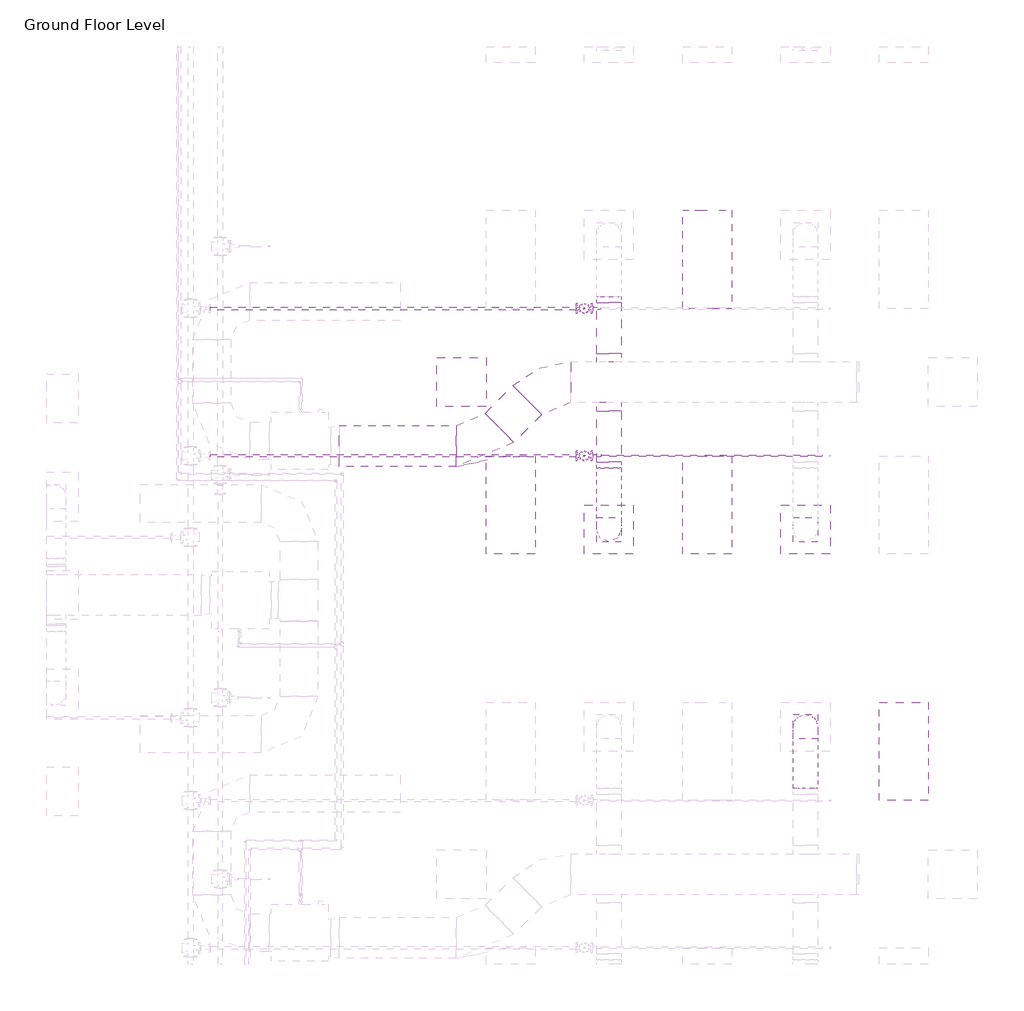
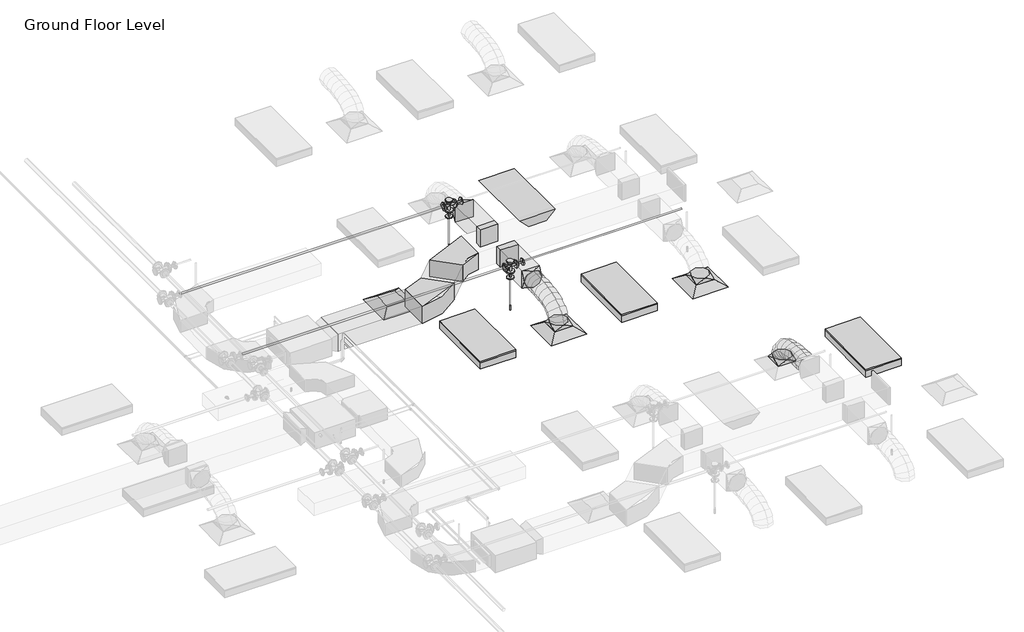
# One storey, part 64 of 74: 9 duct fittings, 6 duct segments, 6 pipe fittings, 5 pipe segments, 4 light fixtures, 3 air terminals, 2 fire suppression terminals.
"""IFC4 building model written with IfcOpenShell, lengths in millimetres."""

from ifc_helpers import new_model, si_unit, point, frame, frame_2d, origin, place, context, project, spatial, polyline, circle_curve, ellipse_curve, trimmed, segment, composite_curve, outline, extrude, transform, mapped, element, save
from ifc_brep_helpers import plane_surface, cylinder_surface, advanced_brep
from components import m_return_diffuser_600_x_600_face_300_x_300_connection_ff221211, m_rectangular_elbow_radius_1_5_w_acc56c25, m_rectangular_takeoff_standard_cb0ccb98, m_rectangular_takeoff_standard_2be5eba1, m_rectangular_to_round_transition_angle_45_degree_641efff0, m_sprinkler_dry_pendent_hosted_15_mm_dry_pendent_9bda8e11, m_emergency_recessed_lighting_fixture_600x1200_277_5b10b25d, m_troffer_light_parabolic_rectangular1_0600x1200mm_4_lamp_86473d4a, m_reducer_flanged_cs_class_150_standard_ccf252ad, m_tee_round_base_flanged_cs_class_150_standard_7e5987a1

model = new_model("IFC4")

# Units and contexts
model_context = context("Model", 3, world=origin())
ifc_project = project(units=[si_unit("LENGTHUNIT", "METRE", prefix="MILLI")], contexts=[model_context])

# Site, building, storey
site = spatial("IfcSite", under=ifc_project)
building = spatial("IfcBuilding", under=site)
storey = spatial("IfcBuildingStorey", under=building, Name="Ground Floor Level", Elevation=900.0)

# Air terminals
placement = place(None, origin())
m_return_diffuser_600_x_600_face_300_x_300_connection_shape = m_return_diffuser_600_x_600_face_300_x_300_connection_ff221211(model_context)
element("IfcAirTerminal", 1, ObjectType="M_Return Diffuser : 600 x 600 Face 300 x 300 Connection", at=placement, inside=storey, context=model_context, shape_type="MappedRepresentation", body=[
    mapped(m_return_diffuser_600_x_600_face_300_x_300_connection_shape, transform((8942.7672395, 6735.2153534, 3650.0), x_axis=(1.0, 0.0, 0.0), y_axis=(0.0, 1.0, 0.0), z_axis=(0.0, 0.0, 1.0))),
])
element("IfcAirTerminal", 2, ObjectType="M_Supply Diffuser : 600 x 600 Face 300 x 300 Connection", at=placement, inside=storey, context=model_context, shape_type="MappedRepresentation", body=[
    mapped(m_return_diffuser_600_x_600_face_300_x_300_connection_shape, transform((10742.7672395, 4935.2153534, 3650.0), x_axis=(1.0, 0.0, 0.0), y_axis=(0.0, 1.0, 0.0), z_axis=(0.0, 0.0, 1.0))),
])
element("IfcAirTerminal", 3, ObjectType="M_Supply Diffuser : 600 x 600 Face 300 x 300 Connection", at=placement, inside=storey, context=model_context, shape_type="MappedRepresentation", body=[
    mapped(m_return_diffuser_600_x_600_face_300_x_300_connection_shape, transform((13142.7672395, 4935.2153534, 3650.0), x_axis=(1.0, 0.0, 0.0), y_axis=(0.0, 1.0, 0.0), z_axis=(0.0, 0.0, 1.0))),
])

# Duct fittings
m_rectangular_elbow_radius_1_5_w_shape = m_rectangular_elbow_radius_1_5_w_acc56c25(model_context)
element("IfcDuctFitting", 4, ObjectType="M_Rectangular Elbow - Radius : 1.5 W", at=placement, inside=storey, context=model_context, shape_type="MappedRepresentation", body=[
    mapped(m_rectangular_elbow_radius_1_5_w_shape, transform((9187.6927358, 5956.1779527, 4100.0047224), x_axis=(0.9999999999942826, 0.0, -3.3815582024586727e-06), y_axis=(-9.063610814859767e-12, 0.9999999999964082, -2.680306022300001e-06), z_axis=(3.3815582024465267e-06, 2.6803060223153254e-06, 0.9999999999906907))),
])
element("IfcDuctFitting", 5, ObjectType="M_Rectangular Elbow - Radius : 1.5 W", at=placement, inside=storey, context=model_context, shape_type="MappedRepresentation", body=[
    mapped(m_rectangular_elbow_radius_1_5_w_shape, transform((9966.7301365, 6735.2153534, 4100.0), x_axis=(-1.0, 0.0, 0.0), y_axis=(0.0, -0.9999999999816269, 6.061864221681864e-06), z_axis=(0.0, 6.061864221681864e-06, 0.9999999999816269))),
])
m_rectangular_takeoff_standard_shape = m_rectangular_takeoff_standard_cb0ccb98(model_context)
element("IfcDuctFitting", 6, ObjectType="M_Rectangular Takeoff : Standard", at=placement, inside=storey, context=model_context, shape_type="MappedRepresentation", body=[
    mapped(m_rectangular_takeoff_standard_shape, transform((10742.7672395, 6985.2153534, 4100.0), x_axis=(0.0, 1.0, 0.0), y_axis=(1.0, 0.0, 0.0), z_axis=(0.0, 0.0, -1.0))),
])
m_rectangular_takeoff_standard_2_shape = m_rectangular_takeoff_standard_2be5eba1(model_context)
element("IfcDuctFitting", 7, ObjectType="M_Rectangular Takeoff : Standard", at=placement, inside=storey, context=model_context, shape_type="MappedRepresentation", body=[
    mapped(m_rectangular_takeoff_standard_2_shape, transform((10742.7672395, 6485.2153534, 4100.0), x_axis=(0.0, -1.0, 0.0), y_axis=(-1.0, 0.0, 0.0), z_axis=(0.0, 0.0, -1.0))),
])
m_rectangular_to_round_transition_angle_45_degree_shape = m_rectangular_to_round_transition_angle_45_degree_641efff0(model_context)
element("IfcDuctFitting", 8, ObjectType="M_Rectangular to Round Transition - Angle : 45 Degree", at=placement, inside=storey, context=model_context, shape_type="MappedRepresentation", body=[
    mapped(m_rectangular_to_round_transition_angle_45_degree_shape, transform((13142.7672395, 2525.2153534, 3751.6), x_axis=(0.0, 0.0, 1.0), y_axis=(-1.0, 0.0, 0.0), z_axis=(0.0, -1.0, 0.0))),
])
element("IfcDuctFitting", 9, ObjectType="M_Rectangular to Round Transition - Angle : 45 Degree", at=placement, inside=storey, context=model_context, shape_type="MappedRepresentation", body=[
    mapped(m_rectangular_to_round_transition_angle_45_degree_shape, transform((10742.7672395, 4935.2153534, 3751.6), x_axis=(0.0, 0.0, 1.0), y_axis=(-1.0, 0.0, 0.0), z_axis=(0.0, -1.0, 0.0))),
])
element("IfcDuctFitting", 10, ObjectType="M_Rectangular to Round Transition - Angle : 45 Degree", at=placement, inside=storey, context=model_context, shape_type="MappedRepresentation", body=[
    mapped(m_rectangular_to_round_transition_angle_45_degree_shape, transform((10742.7672395, 5762.5512847, 4100.0), x_axis=(0.0, -1.0, 0.0), y_axis=(1.0, 0.0, 0.0), z_axis=(0.0, 0.0, 1.0))),
])
element("IfcDuctFitting", 11, ObjectType="M_Rectangular to Round Transition - Angle : 45 Degree", at=placement, inside=storey, context=model_context, shape_type="MappedRepresentation", body=[
    mapped(m_rectangular_to_round_transition_angle_45_degree_shape, transform((13142.7672395, 4935.2153534, 3751.6), x_axis=(0.0, 0.0, 1.0), y_axis=(-1.0, 0.0, 0.0), z_axis=(0.0, -1.0, 0.0))),
])
element("IfcDuctFitting", 12, ObjectType="M_Rectangular to Round Transition - Angle : 45 Degree", at=placement, inside=storey, context=model_context, shape_type="MappedRepresentation", body=[
    mapped(m_rectangular_to_round_transition_angle_45_degree_shape, transform((10742.7672395, 7707.8794221, 4100.0), x_axis=(0.0, 1.0, 0.0), y_axis=(-1.0, 0.0, 0.0), z_axis=(0.0, 0.0, 1.0))),
])

# Duct segments
element("IfcDuctSegment", 13, ObjectType="Flex - Round", at=placement, inside=storey, context=model_context, shape_type="AdvancedBrep", body=[
    advanced_brep(
    [(13292.7672395, 2525.2153534, 3826.6), (13142.7672395, 2375.2153534, 3826.6), (12992.7672395, 2525.2153534, 3826.6), (13142.7672395, 2675.2153534, 3826.6), (13292.7672395, 2525.2153534, 3857.9377114), (13142.7672395, 2375.2153534, 3832.2944892), (12992.7672395, 2525.2153534, 3857.9377114), (13142.7672395, 2675.2153534, 3883.5809337), (13292.7672395, 2508.1994208, 3906.2505728), (13142.7672395, 2374.4614419, 3834.435049), (12992.7672395, 2508.1994208, 3906.2505728), (13142.7672395, 2641.9373998, 3978.0660967), (13292.7672395, 2461.0155405, 3968.7113131), (13142.7672395, 2356.8096412, 3857.8020236), (12992.7672395, 2461.0155405, 3968.7113131), (13142.7672395, 2565.2214397, 4079.6206026), (13292.7672395, 2389.4595883, 4016.0700639), (13142.7672395, 2320.5255327, 3881.8163788), (12992.7672395, 2389.4595883, 4016.0700639), (13142.7672395, 2458.3936439, 4150.3237489), (13292.7672395, 2299.3274403, 4050.4146682), (13142.7672395, 2255.7666771, 3906.4925606), (12992.7672395, 2299.3274403, 4050.4146682), (13142.7672395, 2342.8882035, 4194.3367758), (13292.7672395, 2196.4149725, 4073.8329691), (13142.7672395, 2169.8540485, 3926.0424542), (12992.7672395, 2196.4149725, 4073.8329691), (13142.7672395, 2222.9758965, 4221.6234841), (13292.7672395, 2086.5180607, 4088.4128097), (13142.7672395, 2071.3671584, 3939.1085462), (12992.7672395, 2086.5180607, 4088.4128097), (13142.7672395, 2101.6689631, 4237.7170733), (13292.7672395, 1975.4325811, 4096.242033), (13142.7672395, 1967.9272529, 3946.398915), (12992.7672395, 1975.4325811, 4096.242033), (13142.7672395, 1982.9379093, 4246.085151), (13292.7672395, 1868.9544096, 4099.4084821), (13142.7672395, 1866.2629165, 3949.4222102), (12992.7672395, 1868.9544096, 4099.4084821), (13142.7672395, 1871.6459027, 4249.394754), (13292.7672395, 1772.8794221, 4100.0), (13142.7672395, 1773.8029299, 4249.9971571), (12992.7672395, 1772.8794221, 4100.0), (13142.7672395, 1771.9559143, 3950.0028429)],
    [
        (0, 1, circle_curve(frame((13142.7672395, 2525.2153534, 3826.6), z_axis=(0.0, 0.0, -1.0), x_axis=(1.0, 0.0, 0.0)), 150.0)),
        (1, 2, circle_curve(frame((13142.7672395, 2525.2153534, 3826.6), z_axis=(0.0, 0.0, -1.0), x_axis=(1.0, 0.0, 0.0)), 150.0)),
        (2, 3, circle_curve(frame((13142.7672395, 2525.2153534, 3826.6), z_axis=(0.0, 0.0, -1.0), x_axis=(1.0, 0.0, 0.0)), 150.0)),
        (3, 0, circle_curve(frame((13142.7672395, 2525.2153534, 3826.6), z_axis=(0.0, 0.0, -1.0), x_axis=(1.0, 0.0, 0.0)), 150.0)),
        (0, 4),
        (4, 5, ellipse_curve(frame((13142.7672395, 2525.2153534, 3857.9377114), z_axis=(0.0, 0.16851014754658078, -0.9856999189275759), x_axis=(0.0, -0.9856999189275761, -0.1685101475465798)), 152.176131, 150.0)),
        (5, 1),
        (5, 6, ellipse_curve(frame((13142.7672395, 2525.2153534, 3857.9377114), z_axis=(0.0, 0.16851014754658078, -0.9856999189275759), x_axis=(0.0, -0.9856999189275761, -0.1685101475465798)), 152.176131, 150.0)),
        (6, 2),
        (6, 7, ellipse_curve(frame((13142.7672395, 2525.2153534, 3857.9377114), z_axis=(0.0, 0.16851014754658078, -0.9856999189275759), x_axis=(0.0, -0.9856999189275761, -0.1685101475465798)), 152.176131, 150.0)),
        (7, 3),
        (7, 4, ellipse_curve(frame((13142.7672395, 2525.2153534, 3857.9377114), z_axis=(0.0, 0.16851014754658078, -0.9856999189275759), x_axis=(0.0, -0.9856999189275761, -0.1685101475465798)), 152.176131, 150.0)),
        (4, 8),
        (8, 9, ellipse_curve(frame((13142.7672395, 2508.1994208, 3906.2505728), z_axis=(0.0, 0.47309225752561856, -0.8810128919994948), x_axis=(0.0, -0.8810128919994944, -0.47309225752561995)), 151.8002519, 150.0)),
        (9, 5),
        (9, 10, ellipse_curve(frame((13142.7672395, 2508.1994208, 3906.2505728), z_axis=(0.0, 0.47309225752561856, -0.8810128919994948), x_axis=(0.0, -0.8810128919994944, -0.47309225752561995)), 151.8002519, 150.0)),
        (10, 6),
        (10, 11, ellipse_curve(frame((13142.7672395, 2508.1994208, 3906.2505728), z_axis=(0.0, 0.47309225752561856, -0.8810128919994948), x_axis=(0.0, -0.8810128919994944, -0.47309225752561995)), 151.8002519, 150.0)),
        (11, 7),
        (11, 8, ellipse_curve(frame((13142.7672395, 2508.1994208, 3906.2505728), z_axis=(0.0, 0.47309225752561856, -0.8810128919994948), x_axis=(0.0, -0.8810128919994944, -0.47309225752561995)), 151.8002519, 150.0)),
        (8, 12),
        (12, 13, ellipse_curve(frame((13142.7672395, 2461.0155405, 3968.7113131), z_axis=(0.0, 0.7287877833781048, -0.6847396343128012), x_axis=(0.0, -0.6847396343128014, -0.7287877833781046)), 152.1832446, 150.0)),
        (13, 9),
        (13, 14, ellipse_curve(frame((13142.7672395, 2461.0155405, 3968.7113131), z_axis=(0.0, 0.7287877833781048, -0.6847396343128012), x_axis=(0.0, -0.6847396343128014, -0.7287877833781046)), 152.1832446, 150.0)),
        (14, 10),
        (14, 15, ellipse_curve(frame((13142.7672395, 2461.0155405, 3968.7113131), z_axis=(0.0, 0.7287877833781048, -0.6847396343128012), x_axis=(0.0, -0.6847396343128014, -0.7287877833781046)), 152.1832446, 150.0)),
        (15, 11),
        (15, 12, ellipse_curve(frame((13142.7672395, 2461.0155405, 3968.7113131), z_axis=(0.0, 0.7287877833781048, -0.6847396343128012), x_axis=(0.0, -0.6847396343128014, -0.7287877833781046)), 152.1832446, 150.0)),
        (12, 16),
        (16, 17, ellipse_curve(frame((13142.7672395, 2389.4595883, 4016.0700639), z_axis=(0.0, 0.8895859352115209, -0.45676784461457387), x_axis=(0.0, -0.45676784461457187, -0.8895859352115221)), 150.91705, 150.0)),
        (17, 13),
        (17, 18, ellipse_curve(frame((13142.7672395, 2389.4595883, 4016.0700639), z_axis=(0.0, 0.8895859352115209, -0.45676784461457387), x_axis=(0.0, -0.45676784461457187, -0.8895859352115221)), 150.91705, 150.0)),
        (18, 14),
        (18, 19, ellipse_curve(frame((13142.7672395, 2389.4595883, 4016.0700639), z_axis=(0.0, 0.8895859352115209, -0.45676784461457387), x_axis=(0.0, -0.45676784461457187, -0.8895859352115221)), 150.91705, 150.0)),
        (19, 15),
        (19, 16, ellipse_curve(frame((13142.7672395, 2389.4595883, 4016.0700639), z_axis=(0.0, 0.8895859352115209, -0.45676784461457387), x_axis=(0.0, -0.45676784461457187, -0.8895859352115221)), 150.91705, 150.0)),
        (16, 20),
        (20, 21, ellipse_curve(frame((13142.7672395, 2299.3274403, 4050.4146682), z_axis=(0.0, 0.9571203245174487, -0.28969067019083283), x_axis=(0.0, -0.28969067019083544, -0.9571203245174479)), 150.369921, 150.0)),
        (21, 17),
        (21, 22, ellipse_curve(frame((13142.7672395, 2299.3274403, 4050.4146682), z_axis=(0.0, 0.9571203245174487, -0.28969067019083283), x_axis=(0.0, -0.28969067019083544, -0.9571203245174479)), 150.369921, 150.0)),
        (22, 18),
        (22, 23, ellipse_curve(frame((13142.7672395, 2299.3274403, 4050.4146682), z_axis=(0.0, 0.9571203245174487, -0.28969067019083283), x_axis=(0.0, -0.28969067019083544, -0.9571203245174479)), 150.369921, 150.0)),
        (23, 19),
        (23, 20, ellipse_curve(frame((13142.7672395, 2299.3274403, 4050.4146682), z_axis=(0.0, 0.9571203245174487, -0.28969067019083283), x_axis=(0.0, -0.28969067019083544, -0.9571203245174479)), 150.369921, 150.0)),
        (20, 24),
        (24, 25, ellipse_curve(frame((13142.7672395, 2196.4149725, 4073.8329691), z_axis=(0.0, 0.9842313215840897, -0.17688613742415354), x_axis=(0.0, -0.17688613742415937, -0.9842313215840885)), 150.1583131, 150.0)),
        (25, 21),
        (25, 26, ellipse_curve(frame((13142.7672395, 2196.4149725, 4073.8329691), z_axis=(0.0, 0.9842313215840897, -0.17688613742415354), x_axis=(0.0, -0.17688613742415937, -0.9842313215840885)), 150.1583131, 150.0)),
        (26, 22),
        (26, 27, ellipse_curve(frame((13142.7672395, 2196.4149725, 4073.8329691), z_axis=(0.0, 0.9842313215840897, -0.17688613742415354), x_axis=(0.0, -0.17688613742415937, -0.9842313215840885)), 150.1583131, 150.0)),
        (27, 23),
        (27, 24, ellipse_curve(frame((13142.7672395, 2196.4149725, 4073.8329691), z_axis=(0.0, 0.9842313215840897, -0.17688613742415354), x_axis=(0.0, -0.17688613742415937, -0.9842313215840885)), 150.1583131, 150.0)),
        (24, 28),
        (28, 29, ellipse_curve(frame((13142.7672395, 2086.5180607, 4088.4128097), z_axis=(0.0, 0.9948906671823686, -0.10095821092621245), x_axis=(0.0, -0.10095821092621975, -0.9948906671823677)), 150.0710264, 150.0)),
        (29, 25),
        (29, 30, ellipse_curve(frame((13142.7672395, 2086.5180607, 4088.4128097), z_axis=(0.0, 0.9948906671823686, -0.10095821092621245), x_axis=(0.0, -0.10095821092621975, -0.9948906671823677)), 150.0710264, 150.0)),
        (30, 26),
        (30, 31, ellipse_curve(frame((13142.7672395, 2086.5180607, 4088.4128097), z_axis=(0.0, 0.9948906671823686, -0.10095821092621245), x_axis=(0.0, -0.10095821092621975, -0.9948906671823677)), 150.0710264, 150.0)),
        (31, 27),
        (31, 28, ellipse_curve(frame((13142.7672395, 2086.5180607, 4088.4128097), z_axis=(0.0, 0.9948906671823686, -0.10095821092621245), x_axis=(0.0, -0.10095821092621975, -0.9948906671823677)), 150.0710264, 150.0)),
        (28, 32),
        (32, 33, ellipse_curve(frame((13142.7672395, 1975.4325811, 4096.242033), z_axis=(0.0, 0.9987479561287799, -0.05002519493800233), x_axis=(0.0, -0.05002519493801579, -0.9987479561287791)), 150.0309634, 150.0)),
        (33, 29),
        (33, 34, ellipse_curve(frame((13142.7672395, 1975.4325811, 4096.242033), z_axis=(0.0, 0.9987479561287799, -0.05002519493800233), x_axis=(0.0, -0.05002519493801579, -0.9987479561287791)), 150.0309634, 150.0)),
        (34, 30),
        (34, 35, ellipse_curve(frame((13142.7672395, 1975.4325811, 4096.242033), z_axis=(0.0, 0.9987479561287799, -0.05002519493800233), x_axis=(0.0, -0.05002519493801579, -0.9987479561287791)), 150.0309634, 150.0)),
        (35, 31),
        (35, 32, ellipse_curve(frame((13142.7672395, 1975.4325811, 4096.242033), z_axis=(0.0, 0.9987479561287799, -0.05002519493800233), x_axis=(0.0, -0.05002519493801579, -0.9987479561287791)), 150.0309634, 150.0)),
        (32, 36),
        (36, 37, ellipse_curve(frame((13142.7672395, 1868.9544096, 4099.4084821), z_axis=(0.0, 0.9998390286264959, -0.0179420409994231), x_axis=(-1.8187895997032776e-12, -0.017942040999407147, -0.9998390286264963)), 150.0104193, 150.0)),
        (37, 33),
        (37, 38, ellipse_curve(frame((13142.7672395, 1868.9544096, 4099.4084821), z_axis=(0.0, 0.9998390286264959, -0.0179420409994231), x_axis=(-1.8187895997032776e-12, -0.017942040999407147, -0.9998390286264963)), 150.0104193, 150.0)),
        (38, 34),
        (38, 39, ellipse_curve(frame((13142.7672395, 1868.9544096, 4099.4084821), z_axis=(0.0, 0.9998390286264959, -0.0179420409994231), x_axis=(-1.8187895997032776e-12, -0.017942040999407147, -0.9998390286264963)), 150.0104193, 150.0)),
        (39, 35),
        (39, 36, ellipse_curve(frame((13142.7672395, 1868.9544096, 4099.4084821), z_axis=(0.0, 0.9998390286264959, -0.0179420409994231), x_axis=(-1.8187895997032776e-12, -0.017942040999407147, -0.9998390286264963)), 150.0104193, 150.0)),
        (40, 41, circle_curve(frame((13142.7672395, 1772.8794221, 4100.0), z_axis=(0.0, -0.9999810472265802, 0.006156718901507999), x_axis=(1.0, 0.0, 0.0)), 150.0)),
        (41, 42, circle_curve(frame((13142.7672395, 1772.8794221, 4100.0), z_axis=(0.0, -0.9999810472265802, 0.006156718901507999), x_axis=(1.0, 0.0, 0.0)), 150.0)),
        (42, 43, circle_curve(frame((13142.7672395, 1772.8794221, 4100.0), z_axis=(0.0, -0.9999810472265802, 0.006156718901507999), x_axis=(1.0, 0.0, 0.0)), 150.0)),
        (43, 40, circle_curve(frame((13142.7672395, 1772.8794221, 4100.0), z_axis=(0.0, -0.9999810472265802, 0.006156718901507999), x_axis=(1.0, 0.0, 0.0)), 150.0)),
        (36, 40),
        (43, 37),
        (42, 38),
        (41, 39),
    ],
    [
        plane_surface(frame((13142.7672395, 2375.2153534, 3826.6), z_axis=(0.0, 0.0, -1.0), x_axis=(1.0, 0.0, 0.0))),
        cylinder_surface(frame((13142.7672395, 2525.2153534, 3826.6), z_axis=(0.0, 0.0, -1.0), x_axis=(1.0, 0.0, 0.0)), 150.0),
        cylinder_surface(frame((13142.7672395, 2525.2153534, 3857.9377114), z_axis=(0.0, 0.332200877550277, -0.9432086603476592), x_axis=(1.0, 0.0, 0.0)), 150.0),
        cylinder_surface(frame((13142.7672395, 2508.1994208, 3906.2505728), z_axis=(0.0, 0.6027625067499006, -0.797920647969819), x_axis=(1.0, 0.0, 0.0)), 150.0),
        cylinder_surface(frame((13142.7672395, 2461.0155405, 3968.7113131), z_axis=(0.0, 0.8339024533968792, -0.5519118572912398), x_axis=(1.0, 0.0, 0.0)), 150.0),
        cylinder_surface(frame((13142.7672395, 2389.4595883, 4016.0700639), z_axis=(0.0, 0.9344582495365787, -0.3560727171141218), x_axis=(1.0, 0.0, 0.0)), 150.0),
        cylinder_surface(frame((13142.7672395, 2299.3274403, 4050.4146682), z_axis=(0.0, 0.9750732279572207, -0.22188330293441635), x_axis=(1.0, 0.0, 0.0)), 150.0),
        cylinder_surface(frame((13142.7672395, 2196.4149725, 4073.8329691), z_axis=(0.0, 0.9913140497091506, -0.1315159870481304), x_axis=(1.0, 0.0, 0.0)), 150.0),
        cylinder_surface(frame((13142.7672395, 2086.5180607, 4088.4128097), z_axis=(0.0, 0.9975255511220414, -0.07030487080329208), x_axis=(1.0, 0.0, 0.0)), 150.0),
        cylinder_surface(frame((13142.7672395, 1975.4325811, 4096.242033), z_axis=(0.0, 0.9995581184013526, -0.029724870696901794), x_axis=(1.0, 0.0, 0.0)), 150.0),
        plane_surface(frame((13142.7672395, 1771.9559143, 3950.0028429), z_axis=(0.0, -0.9999810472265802, 0.006156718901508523), x_axis=(1.0, 0.0, 0.0))),
        cylinder_surface(frame((13142.7672395, 1868.9544096, 4099.4084821), z_axis=(0.0, 0.9999810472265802, -0.006156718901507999), x_axis=(1.0, 0.0, 0.0)), 150.0),
    ],
    [
        (0, [[1, 2, 3, 4]]),
        (1, [[-1, 5, 6, 7]]),
        (1, [[-2, -7, 8, 9]]),
        (1, [[-3, -9, 10, 11]]),
        (1, [[-4, -11, 12, -5]]),
        (2, [[-6, 13, 14, 15]]),
        (2, [[-8, -15, 16, 17]]),
        (2, [[-10, -17, 18, 19]]),
        (2, [[-12, -19, 20, -13]]),
        (3, [[-14, 21, 22, 23]]),
        (3, [[-16, -23, 24, 25]]),
        (3, [[-18, -25, 26, 27]]),
        (3, [[-20, -27, 28, -21]]),
        (4, [[-22, 29, 30, 31]]),
        (4, [[-24, -31, 32, 33]]),
        (4, [[-26, -33, 34, 35]]),
        (4, [[-28, -35, 36, -29]]),
        (5, [[-30, 37, 38, 39]]),
        (5, [[-32, -39, 40, 41]]),
        (5, [[-34, -41, 42, 43]]),
        (5, [[-36, -43, 44, -37]]),
        (6, [[-38, 45, 46, 47]]),
        (6, [[-40, -47, 48, 49]]),
        (6, [[-42, -49, 50, 51]]),
        (6, [[-44, -51, 52, -45]]),
        (7, [[-46, 53, 54, 55]]),
        (7, [[-48, -55, 56, 57]]),
        (7, [[-50, -57, 58, 59]]),
        (7, [[-52, -59, 60, -53]]),
        (8, [[-54, 61, 62, 63]]),
        (8, [[-56, -63, 64, 65]]),
        (8, [[-58, -65, 66, 67]]),
        (8, [[-60, -67, 68, -61]]),
        (9, [[-62, 69, 70, 71]]),
        (9, [[-64, -71, 72, 73]]),
        (9, [[-66, -73, 74, 75]]),
        (9, [[-68, -75, 76, -69]]),
        (10, [[77, 78, 79, 80]]),
        (11, [[-70, 81, -80, 82]]),
        (11, [[-72, -82, -79, 83]]),
        (11, [[-74, -83, -78, 84]]),
        (11, [[-76, -84, -77, -81]]),
    ],
),
])
element("IfcDuctSegment", 14, ObjectType="Flex - Round", at=placement, inside=storey, context=model_context, shape_type="AdvancedBrep", body=[
    advanced_brep(
    [(10892.7672395, 4935.2153534, 3826.6), (10742.7672395, 4785.2153534, 3826.6), (10592.7672395, 4935.2153534, 3826.6), (10742.7672395, 5085.2153534, 3826.6), (10892.7672395, 4935.2153534, 3857.9377114), (10742.7672395, 4785.2153534, 3883.5809337), (10592.7672395, 4935.2153534, 3857.9377114), (10742.7672395, 5085.2153534, 3832.2944892), (10892.7672395, 4952.2312859, 3906.2505728), (10742.7672395, 4818.493307, 3978.0660967), (10592.7672395, 4952.2312859, 3906.2505728), (10742.7672395, 5085.9692649, 3834.435049), (10892.7672395, 4999.4151663, 3968.7113131), (10742.7672395, 4895.209267, 4079.6206026), (10592.7672395, 4999.4151663, 3968.7113131), (10742.7672395, 5103.6210655, 3857.8020236), (10892.7672395, 5070.9711184, 4016.0700639), (10742.7672395, 5002.0370628, 4150.3237489), (10592.7672395, 5070.9711184, 4016.0700639), (10742.7672395, 5139.9051741, 3881.8163788), (10892.7672395, 5161.1032664, 4050.4146682), (10742.7672395, 5117.5425033, 4194.3367758), (10592.7672395, 5161.1032664, 4050.4146682), (10742.7672395, 5204.6640296, 3906.4925606), (10892.7672395, 5264.0157343, 4073.8329691), (10742.7672395, 5237.4548103, 4221.6234841), (10592.7672395, 5264.0157343, 4073.8329691), (10742.7672395, 5290.5766583, 3926.0424542), (10892.7672395, 5373.912646, 4088.4128097), (10742.7672395, 5358.7617437, 4237.7170733), (10592.7672395, 5373.912646, 4088.4128097), (10742.7672395, 5389.0635483, 3939.1085462), (10892.7672395, 5484.9981256, 4096.242033), (10742.7672395, 5477.4927974, 4246.085151), (10592.7672395, 5484.9981256, 4096.242033), (10742.7672395, 5492.5034538, 3946.398915), (10892.7672395, 5591.4762972, 4099.4084821), (10742.7672395, 5588.7848041, 4249.394754), (10592.7672395, 5591.4762972, 4099.4084821), (10742.7672395, 5594.1677903, 3949.4222102), (10892.7672395, 5687.5512847, 4100.0), (10742.7672395, 5688.4747925, 3950.0028429), (10592.7672395, 5687.5512847, 4100.0), (10742.7672395, 5686.6277768, 4249.9971571)],
    [
        (0, 1, circle_curve(frame((10742.7672395, 4935.2153534, 3826.6), z_axis=(0.0, 0.0, -1.0), x_axis=(1.0, 0.0, 0.0)), 150.0)),
        (1, 2, circle_curve(frame((10742.7672395, 4935.2153534, 3826.6), z_axis=(0.0, 0.0, -1.0), x_axis=(1.0, 0.0, 0.0)), 150.0)),
        (2, 3, circle_curve(frame((10742.7672395, 4935.2153534, 3826.6), z_axis=(0.0, 0.0, -1.0), x_axis=(1.0, 0.0, 0.0)), 150.0)),
        (3, 0, circle_curve(frame((10742.7672395, 4935.2153534, 3826.6), z_axis=(0.0, 0.0, -1.0), x_axis=(1.0, 0.0, 0.0)), 150.0)),
        (0, 4),
        (4, 5, ellipse_curve(frame((10742.7672395, 4935.2153534, 3857.9377114), z_axis=(0.0, -0.16851014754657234, -0.9856999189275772), x_axis=(0.0, 0.9856999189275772, -0.1685101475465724)), 152.176131, 150.0)),
        (5, 1),
        (5, 6, ellipse_curve(frame((10742.7672395, 4935.2153534, 3857.9377114), z_axis=(0.0, -0.16851014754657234, -0.9856999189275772), x_axis=(0.0, 0.9856999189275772, -0.1685101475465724)), 152.176131, 150.0)),
        (6, 2),
        (6, 7, ellipse_curve(frame((10742.7672395, 4935.2153534, 3857.9377114), z_axis=(0.0, -0.16851014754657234, -0.9856999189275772), x_axis=(0.0, 0.9856999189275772, -0.1685101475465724)), 152.176131, 150.0)),
        (7, 3),
        (7, 4, ellipse_curve(frame((10742.7672395, 4935.2153534, 3857.9377114), z_axis=(0.0, -0.16851014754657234, -0.9856999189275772), x_axis=(0.0, 0.9856999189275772, -0.1685101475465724)), 152.176131, 150.0)),
        (4, 8),
        (8, 9, ellipse_curve(frame((10742.7672395, 4952.2312859, 3906.2505728), z_axis=(0.0, -0.4730922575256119, -0.8810128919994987), x_axis=(0.0, 0.8810128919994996, -0.47309225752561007)), 151.8002519, 150.0)),
        (9, 5),
        (9, 10, ellipse_curve(frame((10742.7672395, 4952.2312859, 3906.2505728), z_axis=(0.0, -0.4730922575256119, -0.8810128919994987), x_axis=(0.0, 0.8810128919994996, -0.47309225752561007)), 151.8002519, 150.0)),
        (10, 6),
        (10, 11, ellipse_curve(frame((10742.7672395, 4952.2312859, 3906.2505728), z_axis=(0.0, -0.4730922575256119, -0.8810128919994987), x_axis=(0.0, 0.8810128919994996, -0.47309225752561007)), 151.8002519, 150.0)),
        (11, 7),
        (11, 8, ellipse_curve(frame((10742.7672395, 4952.2312859, 3906.2505728), z_axis=(0.0, -0.4730922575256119, -0.8810128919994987), x_axis=(0.0, 0.8810128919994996, -0.47309225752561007)), 151.8002519, 150.0)),
        (8, 12),
        (12, 13, ellipse_curve(frame((10742.7672395, 4999.4151663, 3968.7113131), z_axis=(0.0, -0.7287877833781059, -0.6847396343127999), x_axis=(0.0, 0.6847396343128, -0.7287877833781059)), 152.1832446, 150.0)),
        (13, 9),
        (13, 14, ellipse_curve(frame((10742.7672395, 4999.4151663, 3968.7113131), z_axis=(0.0, -0.7287877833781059, -0.6847396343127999), x_axis=(0.0, 0.6847396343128, -0.7287877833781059)), 152.1832446, 150.0)),
        (14, 10),
        (14, 15, ellipse_curve(frame((10742.7672395, 4999.4151663, 3968.7113131), z_axis=(0.0, -0.7287877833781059, -0.6847396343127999), x_axis=(0.0, 0.6847396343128, -0.7287877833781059)), 152.1832446, 150.0)),
        (15, 11),
        (15, 12, ellipse_curve(frame((10742.7672395, 4999.4151663, 3968.7113131), z_axis=(0.0, -0.7287877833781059, -0.6847396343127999), x_axis=(0.0, 0.6847396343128, -0.7287877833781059)), 152.1832446, 150.0)),
        (12, 16),
        (16, 17, ellipse_curve(frame((10742.7672395, 5070.9711184, 4016.0700639), z_axis=(0.0, -0.8895859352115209, -0.4567678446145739), x_axis=(0.0, 0.4567678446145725, -0.8895859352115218)), 150.91705, 150.0)),
        (17, 13),
        (17, 18, ellipse_curve(frame((10742.7672395, 5070.9711184, 4016.0700639), z_axis=(0.0, -0.8895859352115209, -0.4567678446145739), x_axis=(0.0, 0.4567678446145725, -0.8895859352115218)), 150.91705, 150.0)),
        (18, 14),
        (18, 19, ellipse_curve(frame((10742.7672395, 5070.9711184, 4016.0700639), z_axis=(0.0, -0.8895859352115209, -0.4567678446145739), x_axis=(0.0, 0.4567678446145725, -0.8895859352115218)), 150.91705, 150.0)),
        (19, 15),
        (19, 16, ellipse_curve(frame((10742.7672395, 5070.9711184, 4016.0700639), z_axis=(0.0, -0.8895859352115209, -0.4567678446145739), x_axis=(0.0, 0.4567678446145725, -0.8895859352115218)), 150.91705, 150.0)),
        (16, 20),
        (20, 21, ellipse_curve(frame((10742.7672395, 5161.1032664, 4050.4146682), z_axis=(0.0, -0.9571203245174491, -0.28969067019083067), x_axis=(0.0, 0.28969067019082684, -0.9571203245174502)), 150.369921, 150.0)),
        (21, 17),
        (21, 22, ellipse_curve(frame((10742.7672395, 5161.1032664, 4050.4146682), z_axis=(0.0, -0.9571203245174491, -0.28969067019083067), x_axis=(0.0, 0.28969067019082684, -0.9571203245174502)), 150.369921, 150.0)),
        (22, 18),
        (22, 23, ellipse_curve(frame((10742.7672395, 5161.1032664, 4050.4146682), z_axis=(0.0, -0.9571203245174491, -0.28969067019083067), x_axis=(0.0, 0.28969067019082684, -0.9571203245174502)), 150.369921, 150.0)),
        (23, 19),
        (23, 20, ellipse_curve(frame((10742.7672395, 5161.1032664, 4050.4146682), z_axis=(0.0, -0.9571203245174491, -0.28969067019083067), x_axis=(0.0, 0.28969067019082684, -0.9571203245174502)), 150.369921, 150.0)),
        (20, 24),
        (24, 25, ellipse_curve(frame((10742.7672395, 5264.0157343, 4073.8329691), z_axis=(0.0, -0.9842313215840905, -0.17688613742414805), x_axis=(0.0, 0.17688613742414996, -0.9842313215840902)), 150.1583131, 150.0)),
        (25, 21),
        (25, 26, ellipse_curve(frame((10742.7672395, 5264.0157343, 4073.8329691), z_axis=(0.0, -0.9842313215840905, -0.17688613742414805), x_axis=(0.0, 0.17688613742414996, -0.9842313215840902)), 150.1583131, 150.0)),
        (26, 22),
        (26, 27, ellipse_curve(frame((10742.7672395, 5264.0157343, 4073.8329691), z_axis=(0.0, -0.9842313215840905, -0.17688613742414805), x_axis=(0.0, 0.17688613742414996, -0.9842313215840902)), 150.1583131, 150.0)),
        (27, 23),
        (27, 24, ellipse_curve(frame((10742.7672395, 5264.0157343, 4073.8329691), z_axis=(0.0, -0.9842313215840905, -0.17688613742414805), x_axis=(0.0, 0.17688613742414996, -0.9842313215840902)), 150.1583131, 150.0)),
        (24, 28),
        (28, 29, ellipse_curve(frame((10742.7672395, 5373.912646, 4088.4128097), z_axis=(0.0, -0.9948906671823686, -0.10095821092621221), x_axis=(0.0, 0.10095821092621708, -0.9948906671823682)), 150.0710264, 150.0)),
        (29, 25),
        (29, 30, ellipse_curve(frame((10742.7672395, 5373.912646, 4088.4128097), z_axis=(0.0, -0.9948906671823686, -0.10095821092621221), x_axis=(0.0, 0.10095821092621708, -0.9948906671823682)), 150.0710264, 150.0)),
        (30, 26),
        (30, 31, ellipse_curve(frame((10742.7672395, 5373.912646, 4088.4128097), z_axis=(0.0, -0.9948906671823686, -0.10095821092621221), x_axis=(0.0, 0.10095821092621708, -0.9948906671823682)), 150.0710264, 150.0)),
        (31, 27),
        (31, 28, ellipse_curve(frame((10742.7672395, 5373.912646, 4088.4128097), z_axis=(0.0, -0.9948906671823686, -0.10095821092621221), x_axis=(0.0, 0.10095821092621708, -0.9948906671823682)), 150.0710264, 150.0)),
        (28, 32),
        (32, 33, ellipse_curve(frame((10742.7672395, 5484.9981256, 4096.242033), z_axis=(0.0, -0.9987479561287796, -0.05002519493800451), x_axis=(0.0, 0.050025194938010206, -0.9987479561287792)), 150.0309634, 150.0)),
        (33, 29),
        (33, 34, ellipse_curve(frame((10742.7672395, 5484.9981256, 4096.242033), z_axis=(0.0, -0.9987479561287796, -0.05002519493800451), x_axis=(0.0, 0.050025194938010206, -0.9987479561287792)), 150.0309634, 150.0)),
        (34, 30),
        (34, 35, ellipse_curve(frame((10742.7672395, 5484.9981256, 4096.242033), z_axis=(0.0, -0.9987479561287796, -0.05002519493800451), x_axis=(0.0, 0.050025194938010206, -0.9987479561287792)), 150.0309634, 150.0)),
        (35, 31),
        (35, 32, ellipse_curve(frame((10742.7672395, 5484.9981256, 4096.242033), z_axis=(0.0, -0.9987479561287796, -0.05002519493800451), x_axis=(0.0, 0.050025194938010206, -0.9987479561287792)), 150.0309634, 150.0)),
        (32, 36),
        (36, 37, ellipse_curve(frame((10742.7672395, 5591.4762972, 4099.4084821), z_axis=(0.0, -0.9998390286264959, -0.017942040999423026), x_axis=(0.0, 0.01794204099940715, -0.9998390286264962)), 150.0104193, 150.0)),
        (37, 33),
        (37, 38, ellipse_curve(frame((10742.7672395, 5591.4762972, 4099.4084821), z_axis=(0.0, -0.9998390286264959, -0.017942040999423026), x_axis=(0.0, 0.01794204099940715, -0.9998390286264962)), 150.0104193, 150.0)),
        (38, 34),
        (38, 39, ellipse_curve(frame((10742.7672395, 5591.4762972, 4099.4084821), z_axis=(0.0, -0.9998390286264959, -0.017942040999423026), x_axis=(0.0, 0.01794204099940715, -0.9998390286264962)), 150.0104193, 150.0)),
        (39, 35),
        (39, 36, ellipse_curve(frame((10742.7672395, 5591.4762972, 4099.4084821), z_axis=(0.0, -0.9998390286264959, -0.017942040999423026), x_axis=(0.0, 0.01794204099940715, -0.9998390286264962)), 150.0104193, 150.0)),
        (40, 41, circle_curve(frame((10742.7672395, 5687.5512847, 4100.0), z_axis=(0.0, 0.9999810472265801, 0.006156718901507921), x_axis=(1.0, 0.0, 0.0)), 150.0)),
        (41, 42, circle_curve(frame((10742.7672395, 5687.5512847, 4100.0), z_axis=(0.0, 0.9999810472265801, 0.006156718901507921), x_axis=(1.0, 0.0, 0.0)), 150.0)),
        (42, 43, circle_curve(frame((10742.7672395, 5687.5512847, 4100.0), z_axis=(0.0, 0.9999810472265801, 0.006156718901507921), x_axis=(1.0, 0.0, 0.0)), 150.0)),
        (43, 40, circle_curve(frame((10742.7672395, 5687.5512847, 4100.0), z_axis=(0.0, 0.9999810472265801, 0.006156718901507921), x_axis=(1.0, 0.0, 0.0)), 150.0)),
        (36, 40),
        (43, 37),
        (42, 38),
        (41, 39),
    ],
    [
        plane_surface(frame((10742.7672395, 4785.2153534, 3826.6), z_axis=(0.0, 0.0, -1.0), x_axis=(1.0, 0.0, 0.0))),
        cylinder_surface(frame((10742.7672395, 4935.2153534, 3826.6), z_axis=(0.0, 0.0, -1.0), x_axis=(1.0, 0.0, 0.0)), 150.0),
        cylinder_surface(frame((10742.7672395, 4935.2153534, 3857.9377114), z_axis=(0.0, -0.3322008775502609, -0.9432086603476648), x_axis=(1.0, 0.0, 0.0)), 150.0),
        cylinder_surface(frame((10742.7672395, 4952.2312859, 3906.2505728), z_axis=(0.0, -0.6027625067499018, -0.7979206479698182), x_axis=(1.0, 0.0, 0.0)), 150.0),
        cylinder_surface(frame((10742.7672395, 4999.4151663, 3968.7113131), z_axis=(0.0, -0.8339024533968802, -0.5519118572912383), x_axis=(1.0, 0.0, 0.0)), 150.0),
        cylinder_surface(frame((10742.7672395, 5070.9711184, 4016.0700639), z_axis=(0.0, -0.934458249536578, -0.35607271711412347), x_axis=(1.0, 0.0, 0.0)), 150.0),
        cylinder_surface(frame((10742.7672395, 5161.1032664, 4050.4146682), z_axis=(0.0, -0.9750732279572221, -0.22188330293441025), x_axis=(1.0, 0.0, 0.0)), 150.0),
        cylinder_surface(frame((10742.7672395, 5264.0157343, 4073.8329691), z_axis=(0.0, -0.9913140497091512, -0.1315159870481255), x_axis=(1.0, 0.0, 0.0)), 150.0),
        cylinder_surface(frame((10742.7672395, 5373.912646, 4088.4128097), z_axis=(0.0, -0.9975255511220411, -0.07030487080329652), x_axis=(1.0, 0.0, 0.0)), 150.0),
        cylinder_surface(frame((10742.7672395, 5484.9981256, 4096.242033), z_axis=(0.0, -0.9995581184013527, -0.02972487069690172), x_axis=(1.0, 0.0, 0.0)), 150.0),
        plane_surface(frame((10742.7672395, 5686.6277768, 4249.9971571), z_axis=(0.0, 0.9999810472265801, 0.0061567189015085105), x_axis=(1.0, 0.0, 0.0))),
        cylinder_surface(frame((10742.7672395, 5591.4762972, 4099.4084821), z_axis=(0.0, -0.9999810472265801, -0.006156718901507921), x_axis=(1.0, 0.0, 0.0)), 150.0),
    ],
    [
        (0, [[1, 2, 3, 4]]),
        (1, [[-1, 5, 6, 7]]),
        (1, [[-2, -7, 8, 9]]),
        (1, [[-3, -9, 10, 11]]),
        (1, [[-4, -11, 12, -5]]),
        (2, [[-6, 13, 14, 15]]),
        (2, [[-8, -15, 16, 17]]),
        (2, [[-10, -17, 18, 19]]),
        (2, [[-12, -19, 20, -13]]),
        (3, [[-14, 21, 22, 23]]),
        (3, [[-16, -23, 24, 25]]),
        (3, [[-18, -25, 26, 27]]),
        (3, [[-20, -27, 28, -21]]),
        (4, [[-22, 29, 30, 31]]),
        (4, [[-24, -31, 32, 33]]),
        (4, [[-26, -33, 34, 35]]),
        (4, [[-28, -35, 36, -29]]),
        (5, [[-30, 37, 38, 39]]),
        (5, [[-32, -39, 40, 41]]),
        (5, [[-34, -41, 42, 43]]),
        (5, [[-36, -43, 44, -37]]),
        (6, [[-38, 45, 46, 47]]),
        (6, [[-40, -47, 48, 49]]),
        (6, [[-42, -49, 50, 51]]),
        (6, [[-44, -51, 52, -45]]),
        (7, [[-46, 53, 54, 55]]),
        (7, [[-48, -55, 56, 57]]),
        (7, [[-50, -57, 58, 59]]),
        (7, [[-52, -59, 60, -53]]),
        (8, [[-54, 61, 62, 63]]),
        (8, [[-56, -63, 64, 65]]),
        (8, [[-58, -65, 66, 67]]),
        (8, [[-60, -67, 68, -61]]),
        (9, [[-62, 69, 70, 71]]),
        (9, [[-64, -71, 72, 73]]),
        (9, [[-66, -73, 74, 75]]),
        (9, [[-68, -75, 76, -69]]),
        (10, [[77, 78, 79, 80]]),
        (11, [[-70, 81, -80, 82]]),
        (11, [[-72, -82, -79, 83]]),
        (11, [[-74, -83, -78, 84]]),
        (11, [[-76, -84, -77, -81]]),
    ],
),
])
element("IfcDuctSegment", 15, ObjectType="Radius Elbows / Taps", at=placement, inside=storey, context=model_context, shape_type="SweptSolid", body=[
    extrude(outline(polyline([(7447.693178, 5706.1779527), (7447.693178, 6206.1779527), (8877.032564, 6206.1779527), (8877.032564, 5706.1779527), (7447.693178, 5706.1779527)])), frame((0.0, 0.0, 3950.0057729), z_axis=(0.0, 0.0, 1.0), x_axis=(1.0, 0.0, 0.0)), (0.0, 0.0, 1.0), 300.0),
])
element("IfcDuctSegment", 16, ObjectType="Radius Elbows / Taps", at=placement, inside=storey, context=model_context, shape_type="SweptSolid", body=[
    extrude(outline(polyline([(9584.1393452, 5999.0711715), (9230.5859546, 6352.6245621), (9570.2835271, 6692.3221346), (9923.8369177, 6338.768744), (9584.1393452, 5999.0711715)])), frame((0.0, 0.0, 3950.0033908), z_axis=(0.0, 0.0, 1.0), x_axis=(1.0, 0.0, 0.0)), (0.0, 0.0, 1.0), 300.0),
])
element("IfcDuctSegment", 17, ObjectType="Radius Elbows / Taps", at=placement, inside=storey, context=model_context, shape_type="SweptSolid", body=[
    extrude(outline(polyline([(10892.7672395, 7086.8153534), (10592.7672395, 7086.8153534), (10592.7672395, 7707.8794221), (10892.7672395, 7707.8794221), (10892.7672395, 7086.8153534)])), frame((0.0, 0.0, 3950.0), z_axis=(0.0, 0.0, 1.0), x_axis=(1.0, 0.0, 0.0)), (0.0, 0.0, 1.0), 300.0),
])
element("IfcDuctSegment", 18, ObjectType="Radius Elbows / Taps", at=placement, inside=storey, context=model_context, shape_type="SweptSolid", body=[
    extrude(outline(polyline([(10592.7672395, 6383.6153534), (10892.7672395, 6383.6153534), (10892.7672395, 5762.5512847), (10592.7672395, 5762.5512847), (10592.7672395, 6383.6153534)])), frame((0.0, 0.0, 3950.0), z_axis=(0.0, 0.0, 1.0), x_axis=(1.0, 0.0, 0.0)), (0.0, 0.0, 1.0), 300.0),
])

# Fire suppression terminals
m_sprinkler_dry_pendent_hosted_15_mm_dry_pendent_shape = m_sprinkler_dry_pendent_hosted_15_mm_dry_pendent_9bda8e11(model_context)
element("IfcFireSuppressionTerminal", 19, ObjectType="M_Sprinkler - Dry - Pendent - Hosted : 15 mm Dry Pendent", at=placement, inside=storey, context=model_context, shape_type="MappedRepresentation", body=[
    mapped(m_sprinkler_dry_pendent_hosted_15_mm_dry_pendent_shape, transform((10442.7672395, 7635.2153534, 3650.0), x_axis=(1.0, 0.0, 0.0), y_axis=(0.0, -1.0, 0.0), z_axis=(0.0, 0.0, -1.0))),
])
element("IfcFireSuppressionTerminal", 20, ObjectType="M_Sprinkler - Dry - Pendent - Hosted : 15 mm Dry Pendent", at=placement, inside=storey, context=model_context, shape_type="MappedRepresentation", body=[
    mapped(m_sprinkler_dry_pendent_hosted_15_mm_dry_pendent_shape, transform((10442.7672395, 5835.2153534, 3650.0), x_axis=(1.0, 0.0, 0.0), y_axis=(0.0, -1.0, 0.0), z_axis=(0.0, 0.0, -1.0))),
])

# Light fixtures
m_emergency_recessed_lighting_fixture_600x1200_277_shape = m_emergency_recessed_lighting_fixture_600x1200_277_5b10b25d(model_context)
element("IfcLightFixture", 21, ObjectType="M_Emergency Recessed Lighting Fixture : 600x1200 - 277", at=placement, inside=storey, context=model_context, shape_type="MappedRepresentation", body=[
    mapped(m_emergency_recessed_lighting_fixture_600x1200_277_shape, transform((11642.7672395, 7635.2153534, 3650.0), x_axis=(0.0, 1.0, 0.0), y_axis=(-1.0, 0.0, 0.0), z_axis=(0.0, 0.0, 1.0))),
])
m_troffer_light_parabolic_rectangular1_0600x1200mm_4_lamp_shape = m_troffer_light_parabolic_rectangular1_0600x1200mm_4_lamp_86473d4a(model_context)
element("IfcLightFixture", 22, ObjectType="M_Troffer Light - Parabolic Rectangular1 : 0600x1200mm(4 Lamp) - 277V 2", at=placement, inside=storey, context=model_context, shape_type="MappedRepresentation", body=[
    mapped(m_troffer_light_parabolic_rectangular1_0600x1200mm_4_lamp_shape, transform((9483.3013074, 5253.9188549, 3650.0), x_axis=(0.0, 1.0, 0.0), y_axis=(-1.0, 0.0, 0.0), z_axis=(0.0, 0.0, 1.0))),
])
element("IfcLightFixture", 23, ObjectType="M_Troffer Light - Parabolic Rectangular1 : 0600x1200mm(4 Lamp) - 277V 2", at=placement, inside=storey, context=model_context, shape_type="MappedRepresentation", body=[
    mapped(m_troffer_light_parabolic_rectangular1_0600x1200mm_4_lamp_shape, transform((11883.3013074, 5253.9188549, 3650.0), x_axis=(0.0, 1.0, 0.0), y_axis=(-1.0, 0.0, 0.0), z_axis=(0.0, 0.0, 1.0))),
])
element("IfcLightFixture", 24, ObjectType="M_Troffer Light - Parabolic Rectangular1 : 0600x1200mm(4 Lamp) - 277V 2", at=placement, inside=storey, context=model_context, shape_type="MappedRepresentation", body=[
    mapped(m_troffer_light_parabolic_rectangular1_0600x1200mm_4_lamp_shape, transform((14283.3013074, 2243.918855, 3650.0), x_axis=(0.0, 1.0, 0.0), y_axis=(-1.0, 0.0, 0.0), z_axis=(0.0, 0.0, 1.0))),
])

# Pipe fittings
m_reducer_flanged_cs_class_150_standard_shape = m_reducer_flanged_cs_class_150_standard_ccf252ad(model_context)
element("IfcPipeFitting", 25, ObjectType="M_Reducer - Flanged - CS - Class 150 : Standard", at=placement, inside=storey, context=model_context, shape_type="MappedRepresentation", body=[
    mapped(m_reducer_flanged_cs_class_150_standard_shape, transform((10543.4758332, 7635.2153534, 4360.0), x_axis=(1.0, 0.0, 0.0), y_axis=(0.0, 0.0, 1.0), z_axis=(0.0, -1.0, 0.0))),
])
element("IfcPipeFitting", 26, ObjectType="M_Reducer - Flanged - CS - Class 150 : Standard", at=placement, inside=storey, context=model_context, shape_type="MappedRepresentation", body=[
    mapped(m_reducer_flanged_cs_class_150_standard_shape, transform((10442.7672395, 7635.2153534, 4259.2914062), x_axis=(0.0, 0.0, -1.0), y_axis=(-1.0, 0.0, 0.0), z_axis=(0.0, 1.0, 0.0))),
])
element("IfcPipeFitting", 27, ObjectType="M_Reducer - Flanged - CS - Class 150 : Standard", at=placement, inside=storey, context=model_context, shape_type="MappedRepresentation", body=[
    mapped(m_reducer_flanged_cs_class_150_standard_shape, transform((10543.4758332, 5835.2153534, 4360.0), x_axis=(1.0, 0.0, 0.0), y_axis=(0.0, 0.0, 1.0), z_axis=(0.0, -1.0, 0.0))),
])
element("IfcPipeFitting", 28, ObjectType="M_Reducer - Flanged - CS - Class 150 : Standard", at=placement, inside=storey, context=model_context, shape_type="MappedRepresentation", body=[
    mapped(m_reducer_flanged_cs_class_150_standard_shape, transform((10442.7672395, 5835.2153534, 4259.2914062), x_axis=(0.0, 0.0, -1.0), y_axis=(-1.0, 0.0, 0.0), z_axis=(0.0, 1.0, 0.0))),
])
m_tee_round_base_flanged_cs_class_150_standard_shape = m_tee_round_base_flanged_cs_class_150_standard_7e5987a1(model_context)
element("IfcPipeFitting", 29, ObjectType="M_Tee Round Base - Flanged - CS - Class 150 : Standard", at=placement, inside=storey, context=model_context, shape_type="MappedRepresentation", body=[
    mapped(m_tee_round_base_flanged_cs_class_150_standard_shape, transform((10442.7672395, 7635.2153534, 4360.0), x_axis=(1.0, 0.0, 0.0), y_axis=(0.0, 0.0, 1.0), z_axis=(0.0, -1.0, 0.0))),
])
element("IfcPipeFitting", 30, ObjectType="M_Tee Round Base - Flanged - CS - Class 150 : Standard", at=placement, inside=storey, context=model_context, shape_type="MappedRepresentation", body=[
    mapped(m_tee_round_base_flanged_cs_class_150_standard_shape, transform((10442.7672395, 5835.2153534, 4360.0), x_axis=(1.0, 0.0, 0.0), y_axis=(0.0, 0.0, 1.0), z_axis=(0.0, -1.0, 0.0))),
])

# Pipe segments
element("IfcPipeSegment", 31, ObjectType="Steel flanged", at=placement, inside=storey, context=model_context, shape_type="SweptSolid", body=[
    extrude(outline(composite_curve([segment(trimmed(circle_curve(frame_2d((10442.7672395, 7635.2153534)), 10.668), [point((10432.0992395, 7635.2153534))], [point((10442.7672395, 7645.8833534))], False, "CARTESIAN"), True, "CONTINUOUS"), segment(trimmed(circle_curve(frame_2d((10442.7672395, 7635.2153534)), 10.668), [point((10442.7672395, 7645.8833534))], [point((10453.4352395, 7635.2153534))], False, "CARTESIAN"), True, "CONTINUOUS"), segment(trimmed(circle_curve(frame_2d((10442.7672395, 7635.2153534)), 10.668), [point((10453.4352395, 7635.2153534))], [point((10442.7672395, 7624.5473534))], False, "CARTESIAN"), True, "CONTINUOUS"), segment(trimmed(circle_curve(frame_2d((10442.7672395, 7635.2153534)), 10.668), [point((10442.7672395, 7624.5473534))], [point((10432.0992395, 7635.2153534))], False, "CARTESIAN"), True, "CONTINUOUS")], self_intersect=False)), frame((0.0, 0.0, 3650.0), z_axis=(0.0, 0.0, 1.0), x_axis=(1.0, 0.0, 0.0)), (0.0, 0.0, 1.0), 495.2914062),
])
element("IfcPipeSegment", 32, ObjectType="Steel flanged", at=placement, inside=storey, context=model_context, shape_type="SweptSolid", body=[
    extrude(outline(composite_curve([segment(trimmed(circle_curve(frame_2d((7635.2153534, 4360.0)), 16.7005), [point((7651.9158534, 4360.0))], [point((7635.2153534, 4343.2995))], False, "CARTESIAN"), True, "CONTINUOUS"), segment(trimmed(circle_curve(frame_2d((7635.2153534, 4360.0)), 16.7005), [point((7635.2153534, 4343.2995))], [point((7618.5148534, 4360.0))], False, "CARTESIAN"), True, "CONTINUOUS"), segment(trimmed(circle_curve(frame_2d((7635.2153534, 4360.0)), 16.7005), [point((7618.5148534, 4360.0))], [point((7635.2153534, 4376.7005))], False, "CARTESIAN"), True, "CONTINUOUS"), segment(trimmed(circle_curve(frame_2d((7635.2153534, 4360.0)), 16.7005), [point((7635.2153534, 4376.7005))], [point((7651.9158534, 4360.0))], False, "CARTESIAN"), True, "CONTINUOUS")], self_intersect=False)), frame((5876.869498, 0.0, 0.0), z_axis=(1.0, 0.0, 0.0), x_axis=(0.0, 1.0, 0.0)), (0.0, 0.0, 1.0), 4465.1891477),
])
element("IfcPipeSegment", 33, ObjectType="Steel flanged", at=placement, inside=storey, context=model_context, shape_type="SweptSolid", body=[
    extrude(outline(composite_curve([segment(trimmed(circle_curve(frame_2d((10442.7672395, 5835.2153534)), 10.668), [point((10432.0992395, 5835.2153534))], [point((10442.7672395, 5845.8833534))], False, "CARTESIAN"), True, "CONTINUOUS"), segment(trimmed(circle_curve(frame_2d((10442.7672395, 5835.2153534)), 10.668), [point((10442.7672395, 5845.8833534))], [point((10453.4352395, 5835.2153534))], False, "CARTESIAN"), True, "CONTINUOUS"), segment(trimmed(circle_curve(frame_2d((10442.7672395, 5835.2153534)), 10.668), [point((10453.4352395, 5835.2153534))], [point((10442.7672395, 5824.5473534))], False, "CARTESIAN"), True, "CONTINUOUS"), segment(trimmed(circle_curve(frame_2d((10442.7672395, 5835.2153534)), 10.668), [point((10442.7672395, 5824.5473534))], [point((10432.0992395, 5835.2153534))], False, "CARTESIAN"), True, "CONTINUOUS")], self_intersect=False)), frame((0.0, 0.0, 3650.0), z_axis=(0.0, 0.0, 1.0), x_axis=(1.0, 0.0, 0.0)), (0.0, 0.0, 1.0), 495.2914062),
])
element("IfcPipeSegment", 34, ObjectType="Steel flanged", at=placement, inside=storey, context=model_context, shape_type="SweptSolid", body=[
    extrude(outline(composite_curve([segment(trimmed(circle_curve(frame_2d((5835.2153534, 4360.0)), 16.7005), [point((5851.9158534, 4360.0))], [point((5835.2153534, 4343.2995))], False, "CARTESIAN"), True, "CONTINUOUS"), segment(trimmed(circle_curve(frame_2d((5835.2153534, 4360.0)), 16.7005), [point((5835.2153534, 4343.2995))], [point((5818.5148534, 4360.0))], False, "CARTESIAN"), True, "CONTINUOUS"), segment(trimmed(circle_curve(frame_2d((5835.2153534, 4360.0)), 16.7005), [point((5818.5148534, 4360.0))], [point((5835.2153534, 4376.7005))], False, "CARTESIAN"), True, "CONTINUOUS"), segment(trimmed(circle_curve(frame_2d((5835.2153534, 4360.0)), 16.7005), [point((5835.2153534, 4376.7005))], [point((5851.9158534, 4360.0))], False, "CARTESIAN"), True, "CONTINUOUS")], self_intersect=False)), frame((5876.869498, 0.0, 0.0), z_axis=(1.0, 0.0, 0.0), x_axis=(0.0, 1.0, 0.0)), (0.0, 0.0, 1.0), 4465.1891477),
])
element("IfcPipeSegment", 35, ObjectType="Steel flanged", at=placement, inside=storey, context=model_context, shape_type="SweptSolid", body=[
    extrude(outline(composite_curve([segment(trimmed(circle_curve(frame_2d((5835.2153534, 4360.0)), 10.668), [point((5845.8833534, 4360.0))], [point((5835.2153534, 4349.332))], False, "CARTESIAN"), True, "CONTINUOUS"), segment(trimmed(circle_curve(frame_2d((5835.2153534, 4360.0)), 10.668), [point((5835.2153534, 4349.332))], [point((5824.5473534, 4360.0))], False, "CARTESIAN"), True, "CONTINUOUS"), segment(trimmed(circle_curve(frame_2d((5835.2153534, 4360.0)), 10.668), [point((5824.5473534, 4360.0))], [point((5835.2153534, 4370.668))], False, "CARTESIAN"), True, "CONTINUOUS"), segment(trimmed(circle_curve(frame_2d((5835.2153534, 4360.0)), 10.668), [point((5835.2153534, 4370.668))], [point((5845.8833534, 4360.0))], False, "CARTESIAN"), True, "CONTINUOUS")], self_intersect=False)), frame((10657.4758332, 0.0, 0.0), z_axis=(1.0, 0.0, 0.0), x_axis=(0.0, 1.0, 0.0)), (0.0, 0.0, 1.0), 2692.2828125),
])

save(model, "model.ifc")
